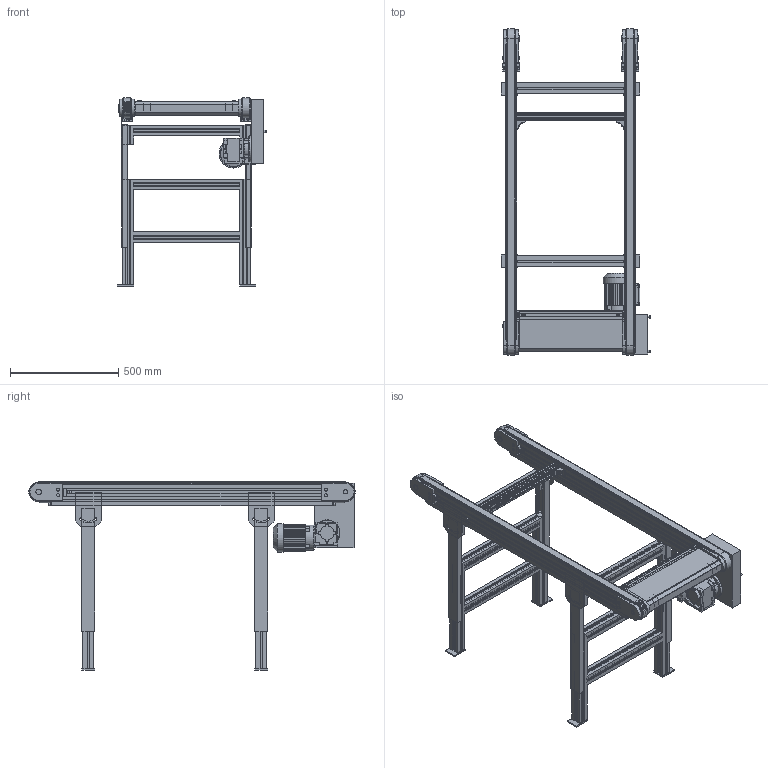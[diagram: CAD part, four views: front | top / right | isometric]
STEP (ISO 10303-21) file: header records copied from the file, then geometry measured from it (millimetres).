
FILE_DESCRIPTION(/* description */ (''),/* implementation_level */ '2;1');
FILE_NAME(/* name */ 'C:\Marketing\01_Versamove-SPU_STEP-Dateien-Homepage\Versamove plus\STEP-Dateien\Zahnriemenförderer_ZRF-P-2010_B600_L1500.stp',/* time_stamp */ '2016-12-22T10:43:25+01:00',/* author */ ('herbert.engels'),/* organization */ (''),/* preprocessor_version */ 'ST-DEVELOPER v15.6',/* originating_system */ 'Autodesk Inventor 2015',/* authorisation */ '');
FILE_SCHEMA (('CONFIG_CONTROL_DESIGN'));
Products named in the file (1): Zahnriemenförderer_ZRF-P-2010_B600_L1500
Bounding box: 690.65 x 1511.13 x 870.56 mm (x, y, z)
Volume: 29907661.7 mm3; surface area: 6674436.1 mm2
Topology: 3 solids, 3 shells, 3688 faces, 11037 edges, 7160 vertices
Faces by surface type: plane 2532, cylinder 855, bspline 172, cone 116, torus 11, sphere 2
Full cylindrical faces by diameter (mm): 7 x4, 8 x32, 13 x12, 16.2 x4, 19 x2, 20 x5, 24 x1, 25.5 x4, 30 x1, 35 x6, 40 x4, 56 x2, 72 x1, 87.127 x1, 117 x1, 120 x1, 132 x1
Entity records: 130476 total; most frequent: CARTESIAN_POINT 27944, ORIENTED_EDGE 21770, DIRECTION 19398, EDGE_CURVE 10875, LINE 7932, VECTOR 7932, VERTEX_POINT 7122, AXIS2_PLACEMENT_3D 5733
